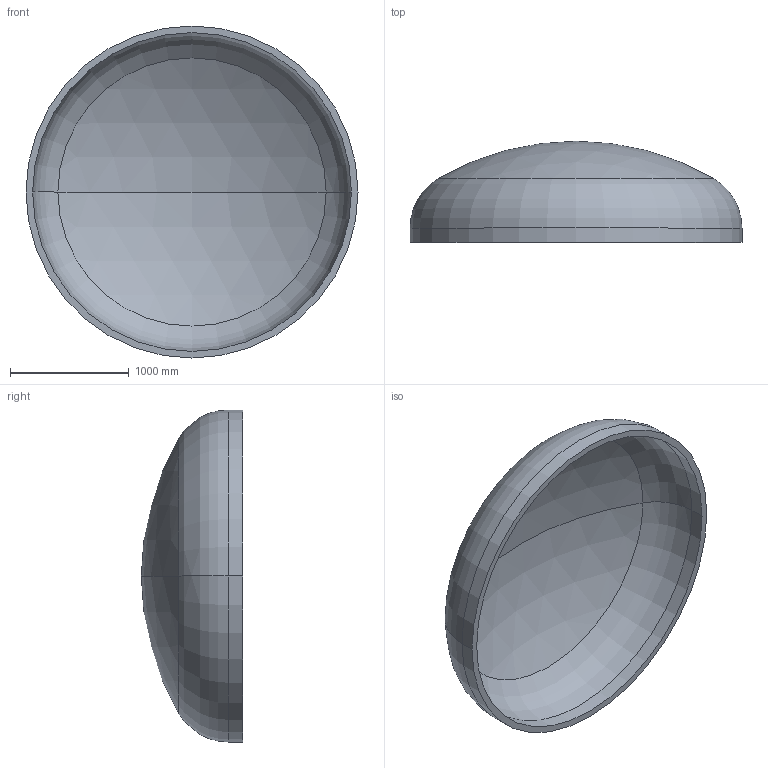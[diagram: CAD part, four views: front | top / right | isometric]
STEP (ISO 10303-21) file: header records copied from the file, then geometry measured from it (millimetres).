
FILE_DESCRIPTION (( 'STEP AP203' ), '1' );
FILE_NAME ('DIN 28013 Korbbogenform_-_Boden DIN 28013 - 2800 x 120 - I - s=56.step', '2016-07-01T17:05:22', ( '' ), ( '' ), 'SwSTEP 2.0', 'SolidWorks 2013', '' );
FILE_SCHEMA (( 'CONFIG_CONTROL_DESIGN' ));
Length unit declared in the file: millimetre
Products named in the file (1): DIN 28013 Korbbogenform_-_Boden DIN 28013 - 2800 x 120 - I - s=56
Bounding box: 2800 x 853.72 x 2800 mm (x, y, z)
Volume: 522834902.1 mm3; surface area: 19161986.5 mm2
Topology: 1 solids, 1 shells, 13 faces, 24 edges, 14 vertices
Faces by surface type: torus 4, cylinder 4, sphere 4, plane 1
Entity records: 407 total; most frequent: DIRECTION 72, CARTESIAN_POINT 52, ORIENTED_EDGE 48, AXIS2_PLACEMENT_3D 34, EDGE_CURVE 24, CIRCLE 20, VERTEX_POINT 14, EDGE_LOOP 14
